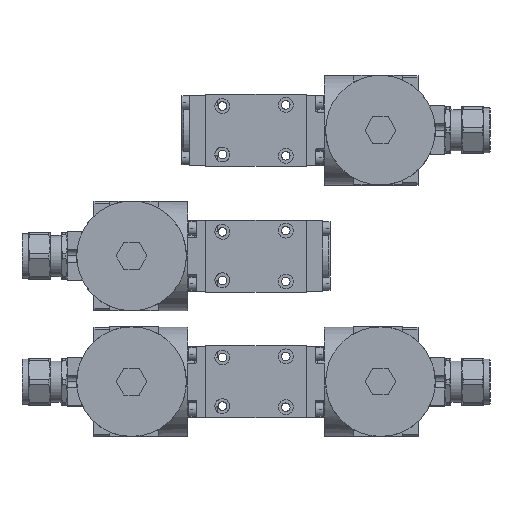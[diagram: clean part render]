
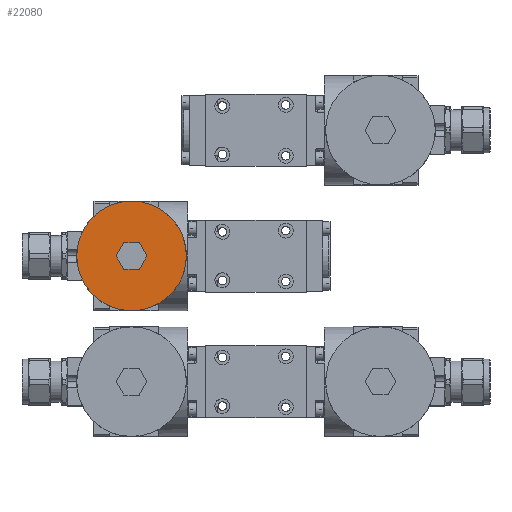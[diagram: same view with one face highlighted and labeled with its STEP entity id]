
A CAD part, top view. The second image highlights one B-rep face of the part: STEP entity #22080.
In plain terms, the highlighted planar face has unit normal (0, 0, 1).
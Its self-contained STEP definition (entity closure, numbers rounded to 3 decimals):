
#22080=ADVANCED_FACE('', (#22090,#22100), #22110, .T.);
#78710=AXIS2_PLACEMENT_3D('Ax2Pl3d', #78720, #78730, #78740);
#83950=AXIS2_PLACEMENT_3D('Ax2Pl3d', #83960, #83970, #83980);
#78720=CARTESIAN_POINT('HicPkt', (-47.5,103.,304.));
#226750=CARTESIAN_POINT('', (-47.5,138.,304.));
#228690=CARTESIAN_POINT('', (-42.593,111.472,304.));
#228700=CARTESIAN_POINT('', (-37.685,102.972,304.));
#228710=CARTESIAN_POINT('', (-42.593,111.472,304.));
#83960=CARTESIAN_POINT('HicPkt', (-47.5,138.,304.));
#228770=CARTESIAN_POINT('', (-37.685,102.972,304.));
#228780=CARTESIAN_POINT('', (-42.593,94.472,304.));
#228790=CARTESIAN_POINT('', (-42.593,94.472,304.));
#228800=CARTESIAN_POINT('', (-52.408,94.472,304.));
#228810=CARTESIAN_POINT('', (-52.408,94.472,304.));
#228820=CARTESIAN_POINT('', (-57.315,102.972,304.));
#228830=CARTESIAN_POINT('', (-57.315,102.972,304.));
#228840=CARTESIAN_POINT('', (-52.408,111.472,304.));
#228850=CARTESIAN_POINT('', (-52.408,111.472,304.));
#245860=CIRCLE('Circle', #78710, 35.);
#78730=DIRECTION('Axis', (0.,0.,-1.));
#78740=DIRECTION('RefDirection', (-1.,0.,0.));
#342190=DIRECTION('', (-0.5,0.866,0.));
#83970=DIRECTION('Axis', (0.,0.,1.));
#83980=DIRECTION('RefDirection', (1.,0.,0.));
#342230=DIRECTION('', (0.5,0.866,0.));
#342240=DIRECTION('', (1.,0.,0.));
#342250=DIRECTION('', (0.5,-0.866,0.));
#342260=DIRECTION('', (-0.5,-0.866,0.));
#342270=DIRECTION('', (-1.,0.,0.));
#376500=EDGE_CURVE('', #376510, #376510, #245860, .T.);
#380080=EDGE_CURVE('', #380090, #380100, #380110, .T.);
#380200=EDGE_CURVE('', #380210, #380090, #380220, .T.);
#380230=EDGE_CURVE('', #380240, #380210, #380250, .T.);
#380260=EDGE_CURVE('', #380270, #380240, #380280, .T.);
#380290=EDGE_CURVE('', #380300, #380270, #380310, .T.);
#380320=EDGE_CURVE('', #380100, #380300, #380330, .T.);
#439290=EDGE_LOOP('Edge_loop', (#439300));
#439310=EDGE_LOOP('Edge_loop', (#439320,#439330,#439340,#439350,#439360,
#439370));
#22100=FACE_BOUND('', #439310, .T.);
#22090=FACE_OUTER_BOUND('Face_outer_bound', #439290, .T.);
#380110=LINE('Line', #228690, #500030);
#380220=LINE('Line', #228770, #500070);
#380250=LINE('Line', #228790, #500080);
#380280=LINE('Line', #228810, #500090);
#380310=LINE('Line', #228830, #500100);
#380330=LINE('Line', #228850, #500110);
#439300=ORIENTED_EDGE('', *, *, #376500, .F.);
#439320=ORIENTED_EDGE('', *, *, #380080, .F.);
#439330=ORIENTED_EDGE('', *, *, #380200, .F.);
#439340=ORIENTED_EDGE('', *, *, #380230, .F.);
#439350=ORIENTED_EDGE('', *, *, #380260, .F.);
#439360=ORIENTED_EDGE('', *, *, #380290, .F.);
#439370=ORIENTED_EDGE('', *, *, #380320, .F.);
#22110=PLANE('Plane', #83950);
#500030=VECTOR('', #342190, 9.815);
#500070=VECTOR('', #342230, 9.815);
#500080=VECTOR('', #342240, 9.815);
#500090=VECTOR('', #342250, 9.815);
#500100=VECTOR('', #342260, 9.815);
#500110=VECTOR('', #342270, 9.815);
#376510=VERTEX_POINT('', #226750);
#380090=VERTEX_POINT('', #228700);
#380100=VERTEX_POINT('', #228710);
#380210=VERTEX_POINT('', #228780);
#380240=VERTEX_POINT('', #228800);
#380270=VERTEX_POINT('', #228820);
#380300=VERTEX_POINT('', #228840);
